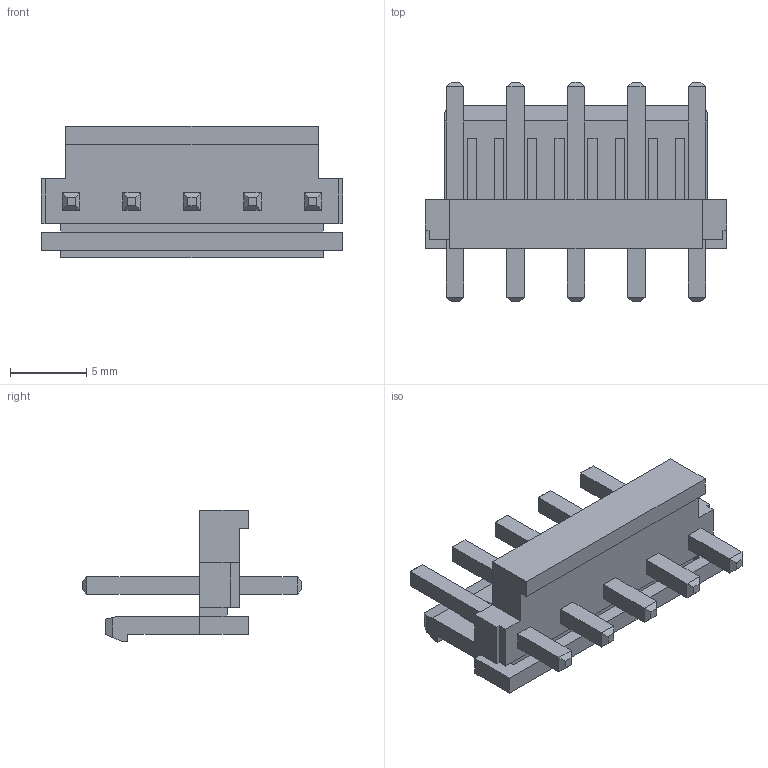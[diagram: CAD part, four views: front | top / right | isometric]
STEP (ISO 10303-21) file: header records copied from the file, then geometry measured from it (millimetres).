
FILE_DESCRIPTION((''),'2;1');
FILE_NAME('535200520','2007-11-27T',('mhm01'),(''),'PRO/ENGINEER BY PARAMETRIC TECHNOLOGY CORPORATION, 2003451','PRO/ENGINEER BY PARAMETRIC TECHNOLOGY CORPORATION, 2003451','');
FILE_SCHEMA(('CONFIG_CONTROL_DESIGN'));
Length unit declared in the file: millimetre
Products named in the file (1): 535200520
Bounding box: 19.74 x 14.4 x 8.65 mm (x, y, z)
Volume: 552.8 mm3; surface area: 1233.1 mm2
Topology: 1 solids, 1 shells, 219 faces, 592 edges, 384 vertices
Faces by surface type: plane 219
Entity records: 6730 total; most frequent: CARTESIAN_POINT 1187, ORIENTED_EDGE 1164, DIRECTION 1044, VECTOR 582, LINE 582, EDGE_CURVE 582, VERTEX_POINT 374, AXIS2_PLACEMENT_3D 231
